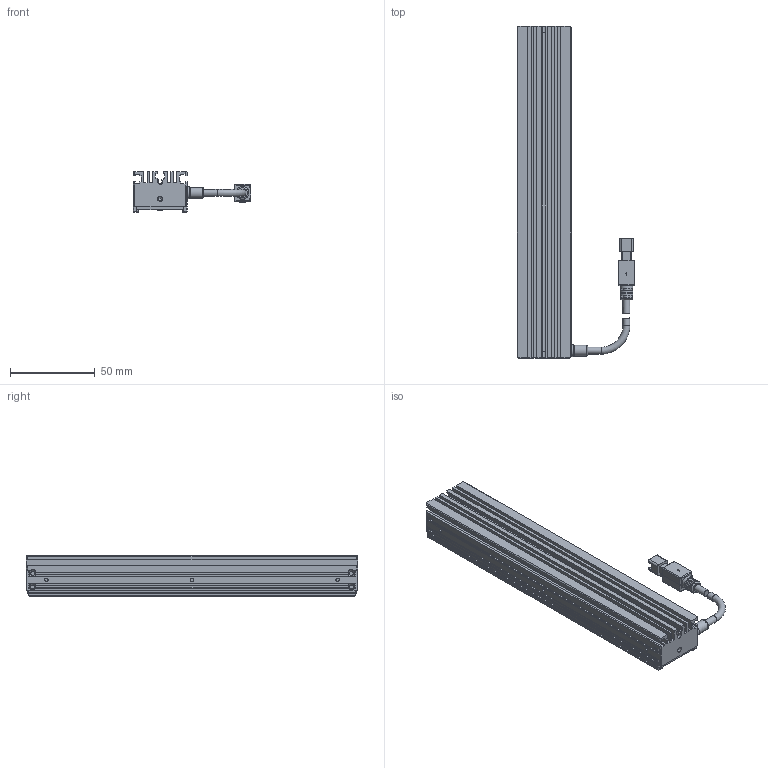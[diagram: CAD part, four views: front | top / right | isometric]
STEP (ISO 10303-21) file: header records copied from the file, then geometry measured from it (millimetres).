
FILE_DESCRIPTION (( 'STEP AP203' ), '1' );
FILE_NAME ('OPT-ULI19632-UV-V1.0 U尨砩芞.STEP', '2024-12-10T10:43:46', ( '' ), ( '' ), 'SwSTEP 2.0', 'SolidWorks 2016', '' );
FILE_SCHEMA (( 'CONFIG_CONTROL_DESIGN' ));
Length unit declared in the file: millimetre
Products named in the file (1): OPT-ULI19632-UV-V1.0 U尨砩芞
Bounding box: 69.6 x 196 x 24 mm (x, y, z)
Volume: 119484.7 mm3; surface area: 51549.8 mm2
Topology: 6 solids, 16 shells, 647 faces, 1665 edges, 1070 vertices
Faces by surface type: plane 445, cylinder 143, cone 30, bspline 21, torus 8
Full cylindrical faces by diameter (mm): 1.1 x2, 1.4 x4, 1.6 x9, 2 x13, 2.4 x7, 2.5 x2, 2.6 x2, 3 x2, 3.5 x1, 4.1 x4, 6.5 x1, 7 x1, 7.5 x1
Entity records: 19619 total; most frequent: CARTESIAN_POINT 4455, ORIENTED_EDGE 3096, DIRECTION 3007, EDGE_CURVE 1548, VECTOR 1087, LINE 1087, VERTEX_POINT 1036, AXIS2_PLACEMENT_3D 960
